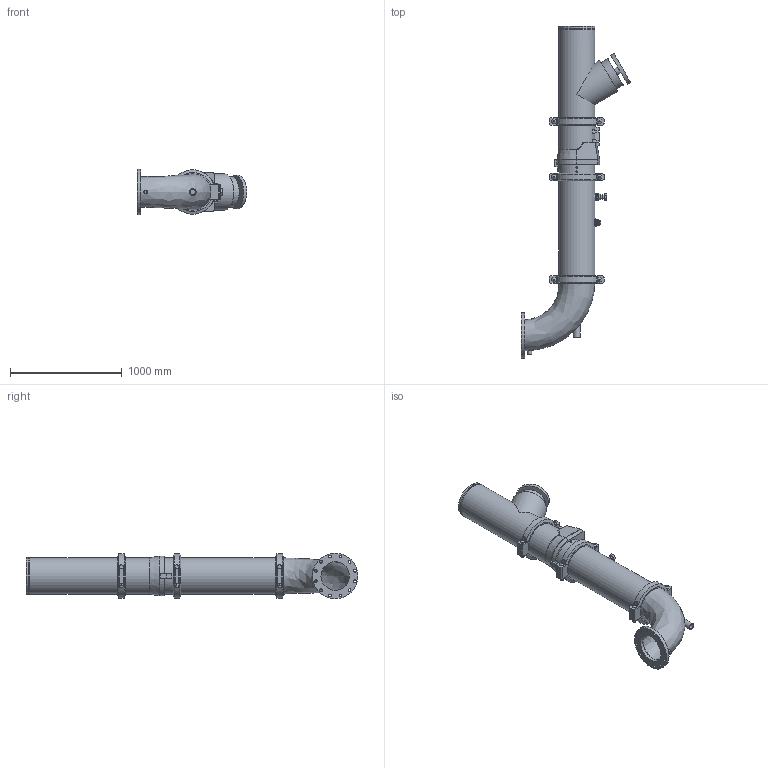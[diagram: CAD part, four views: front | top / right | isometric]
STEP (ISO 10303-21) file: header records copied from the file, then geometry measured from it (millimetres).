
FILE_DESCRIPTION(/* description */ ('VIC DVI PUMP DROP HORZ S/383 (OGSxFLG) (S/924-1.25)','CAx-IF Rec.Pracs.---Representation and Presentation of Product Manufacturing Information (PMI)---4.0---2014-10-13'),/* implementation_level */ '2;1');
FILE_NAME(/* name */ 'C:\Users\Vjadhav\AppData\Roaming\Autodesk\ApplicationPlugins\Victaulic.Temp\A892\Victaulic_IPS_Horizontal DVI_CL 150_Series 383 (OGSxFLG)_924 (1.25)_12.0x10.0 (300x250).stp',/* time_stamp */ '2022-02-28T15:46:23+05:00',/* author */ ('kkamble'),/* organization */ ('Victaulic'),/* preprocessor_version */ 'ST-DEVELOPER v17.2',/* originating_system */ 'Autodesk Inventor 2019',/* authorisation */ '');
FILE_SCHEMA (('AP242_MANAGED_MODEL_BASED_3D_ENGINEERING_MIM_LF { 1 0 10303 442 1 1 4 }'));
Length unit declared in the file: inch
Products named in the file (8): 383-924 (1.25)-12.0x10.0; Pipe-12.0; 789-12.0; 779-12.0; 924-10.0x01.25; 923-10.0x0.75; R100F-12.0x10.0; 077-12.0
Assembly tree (9 placements, depth 2):
  383-924 (1.25)-12.0x10.0
    Pipe-12.0
    789-12.0
    779-12.0
    077-12.0  x3
    924-10.0x01.25
    923-10.0x0.75
    R100F-12.0x10.0
Bounding box: 977.9 x 2965.45 x 406.4 mm (x, y, z)
Volume: 66866524.9 mm3; surface area: 7809452.7 mm2
Topology: 9 solids, 16 shells, 453 faces, 1120 edges, 767 vertices
Faces by surface type: plane 268, cylinder 150, cone 17, bspline 12, torus 6
Full cylindrical faces by diameter (mm): 13.716 x4, 21.336 x2, 25.4 x24, 26.67 x3, 27.432 x6, 34.29 x1, 38.608 x1, 42.164 x1, 45.974 x4, 48.26 x1, 48.514 x1, 55.626 x2, 60.96 x2, 76.2 x1, 254.508 x1, 273.05 x1, 299.974 x1, 303.225 x2, 304.8 x2, 314.96 x3, 318.287 x7, 323.85 x18, 406.4 x1
Entity records: 12400 total; most frequent: CARTESIAN_POINT 3405, DIRECTION 1830, ORIENTED_EDGE 1660, EDGE_CURVE 830, AXIS2_PLACEMENT_3D 704, VERTEX_POINT 571, EDGE_LOOP 423, LINE 422
